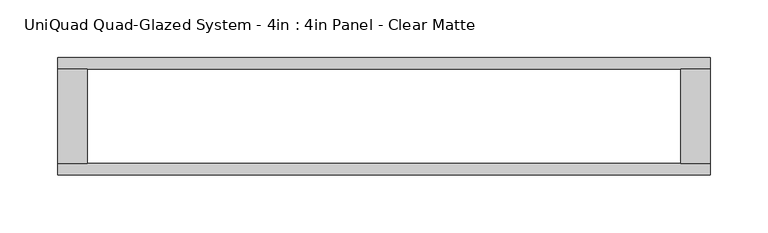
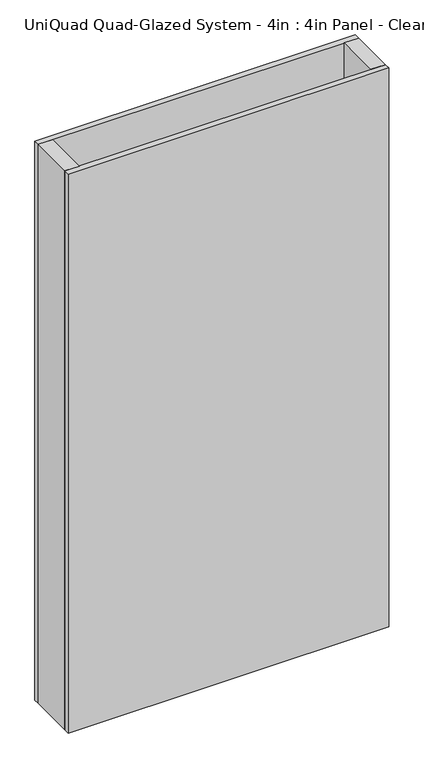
"""IFC4 building model written with IfcOpenShell, lengths in millimetres: plate geometry, UniQuad Quad-Glazed System - 4in : 4in Panel - Clear Matte."""

from ifc_helpers import new_model, si_unit, origin, origin_with_axes, place, context, project, spatial, polyline, outline, extrude, source, transform, mapped, element, save


def uniquad_quad_glazed_system_4in_4in_panel_clear_matte_39d02d22(model_context):
    return source(origin(), model_context, "Body", "SweptSolid", [
        extrude(outline(polyline([(-282.3680946, 40.7924), (-256.9680946, 40.7924), (-256.9680946, -40.7924), (-282.3680946, -40.7924), (-282.3680946, 40.7924)])), origin_with_axes(), (0.0, 0.0, 1.0), 1041.4),
        extrude(outline(polyline([(282.3680946, 40.7924), (282.3680946, -40.7924), (256.9680946, -40.7924), (256.9680946, 40.7924), (282.3680946, 40.7924)])), origin_with_axes(), (0.0, 0.0, 1.0), 1041.4),
        extrude(outline(polyline([(282.3680946, -40.7924), (282.3680946, -50.8), (-282.3680946, -50.8), (-282.3680946, -40.7924), (282.3680946, -40.7924)])), origin_with_axes(), (0.0, 0.0, 1.0), 1041.4),
        extrude(outline(polyline([(282.3680946, 50.8), (282.3680946, 40.7924), (-282.3680946, 40.7924), (-282.3680946, 50.8), (282.3680946, 50.8)])), origin_with_axes(), (0.0, 0.0, 1.0), 1041.4),
    ])


if __name__ == "__main__":
    model = new_model("IFC4")
    model_context = context("Model", 3, world=origin())
    ifc_project = project(units=[si_unit("LENGTHUNIT", "METRE", prefix="MILLI")], contexts=[model_context])
    site = spatial("IfcSite", under=ifc_project)
    building = spatial("IfcBuilding", under=site)
    placement = place(None, origin())
    uniquad_quad_glazed_system_4in_4in_panel_clear_matte_shape = uniquad_quad_glazed_system_4in_4in_panel_clear_matte_39d02d22(model_context)
    element("IfcPlate", 1, ObjectType="UniQuad Quad-Glazed System - 4in : 4in Panel - Clear Matte", at=placement, inside=building, context=model_context, shape_type="MappedRepresentation", body=[
        mapped(uniquad_quad_glazed_system_4in_4in_panel_clear_matte_shape, transform((0.0, 0.0, 0.0), x_axis=(1.0, 0.0, 0.0), y_axis=(0.0, 1.0, 0.0), z_axis=(0.0, 0.0, 1.0))),
    ])
    save(model, "model.ifc")
